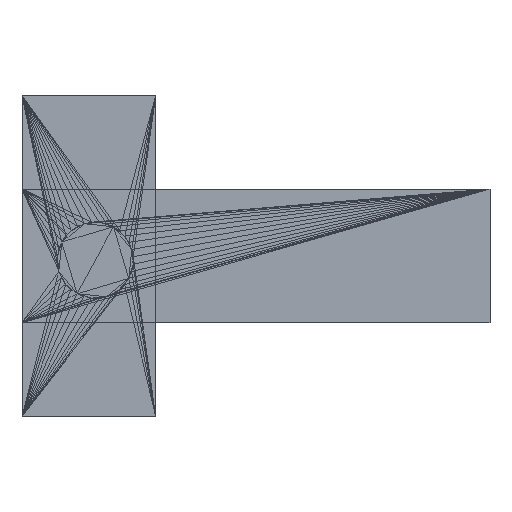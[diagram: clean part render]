
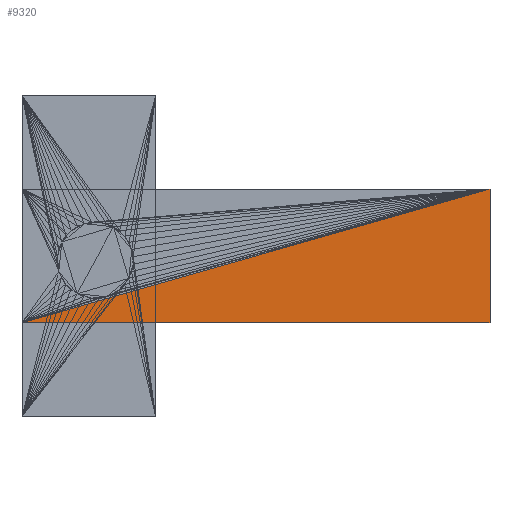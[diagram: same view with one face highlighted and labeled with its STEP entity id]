
A CAD part, top view. The second image highlights one B-rep face of the part: STEP entity #9320.
In plain terms, the highlighted planar face has unit normal (0, 0, 1).
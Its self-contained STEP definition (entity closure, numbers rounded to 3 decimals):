
#8500 = VERTEX_POINT('',#8501);
#8501 = CARTESIAN_POINT('',(-0.245,0.345,
    0.795));
#8828 = PLANE('',#8829);
#8829 = AXIS2_PLACEMENT_3D('',#8830,#8831,#8832);
#8830 = CARTESIAN_POINT('',(-0.228,0.35,
    0.795));
#8831 = DIRECTION('',(0.,0.,1.));
#8832 = DIRECTION('',(1.,0.,-0.));
#8869 = VERTEX_POINT('',#8870);
#8870 = CARTESIAN_POINT('',(-0.21,0.355,
    0.795));
#8896 = EDGE_CURVE('',#8869,#8500,#8897,.T.);
#8897 = SURFACE_CURVE('',#8898,(#8902,#8908),.PCURVE_S1.);
#8898 = LINE('',#8899,#8900);
#8899 = CARTESIAN_POINT('',(-0.21,0.355,
    0.795));
#8900 = VECTOR('',#8901,1.);
#8901 = DIRECTION('',(-0.962,-0.275,0.));
#8902 = PCURVE('',#8828,#8903);
#8903 = DEFINITIONAL_REPRESENTATION('',(#8904),#8907);
#8904 = B_SPLINE_CURVE_WITH_KNOTS('',1,(#8905,#8906),.UNSPECIFIED.,.F.,
  .F.,(2,2),(0.,0.036),.PIECEWISE_BEZIER_KNOTS.);
#8905 = CARTESIAN_POINT('',(0.018,0.005));
#8906 = CARTESIAN_POINT('',(-0.017,-0.005));
#8907 = ( GEOMETRIC_REPRESENTATION_CONTEXT(2) 
PARAMETRIC_REPRESENTATION_CONTEXT() REPRESENTATION_CONTEXT('2D SPACE',''
  ) );
#8908 = PCURVE('',#8909,#8914);
#8909 = PLANE('',#8910);
#8910 = AXIS2_PLACEMENT_3D('',#8911,#8912,#8913);
#8911 = CARTESIAN_POINT('',(-0.226,0.348,
    0.795));
#8912 = DIRECTION('',(0.,0.,1.));
#8913 = DIRECTION('',(0.,1.,0.));
#8914 = DEFINITIONAL_REPRESENTATION('',(#8915),#8919);
#8915 = LINE('',#8916,#8917);
#8916 = CARTESIAN_POINT('',(0.007,-0.015));
#8917 = VECTOR('',#8918,1.);
#8918 = DIRECTION('',(-0.275,0.962));
#8919 = ( GEOMETRIC_REPRESENTATION_CONTEXT(2) 
PARAMETRIC_REPRESENTATION_CONTEXT() REPRESENTATION_CONTEXT('2D SPACE',''
  ) );
#9188 = PLANE('',#9189);
#9189 = AXIS2_PLACEMENT_3D('',#9190,#9191,#9192);
#9190 = CARTESIAN_POINT('',(-0.227,0.345,0.793
    ));
#9191 = DIRECTION('',(-0.,-1.,-0.));
#9192 = DIRECTION('',(0.,0.,-1.));
#9206 = VERTEX_POINT('',#9207);
#9207 = CARTESIAN_POINT('',(-0.21,0.345,
    0.795));
#9227 = EDGE_CURVE('',#9206,#8500,#9228,.T.);
#9228 = SURFACE_CURVE('',#9229,(#9233,#9240),.PCURVE_S1.);
#9229 = LINE('',#9230,#9231);
#9230 = CARTESIAN_POINT('',(-0.21,0.345,
    0.795));
#9231 = VECTOR('',#9232,1.);
#9232 = DIRECTION('',(-1.,0.,0.));
#9233 = PCURVE('',#9188,#9234);
#9234 = DEFINITIONAL_REPRESENTATION('',(#9235),#9239);
#9235 = LINE('',#9236,#9237);
#9236 = CARTESIAN_POINT('',(-0.001,0.016));
#9237 = VECTOR('',#9238,1.);
#9238 = DIRECTION('',(0.,-1.));
#9239 = ( GEOMETRIC_REPRESENTATION_CONTEXT(2) 
PARAMETRIC_REPRESENTATION_CONTEXT() REPRESENTATION_CONTEXT('2D SPACE',''
  ) );
#9240 = PCURVE('',#8909,#9241);
#9241 = DEFINITIONAL_REPRESENTATION('',(#9242),#9245);
#9242 = B_SPLINE_CURVE_WITH_KNOTS('',1,(#9243,#9244),.UNSPECIFIED.,.F.,
  .F.,(2,2),(0.,0.035),.PIECEWISE_BEZIER_KNOTS.);
#9243 = CARTESIAN_POINT('',(-0.003,-0.015));
#9244 = CARTESIAN_POINT('',(-0.003,0.02));
#9245 = ( GEOMETRIC_REPRESENTATION_CONTEXT(2) 
PARAMETRIC_REPRESENTATION_CONTEXT() REPRESENTATION_CONTEXT('2D SPACE',''
  ) );
#9264 = PLANE('',#9265);
#9265 = AXIS2_PLACEMENT_3D('',#9266,#9267,#9268);
#9266 = CARTESIAN_POINT('',(-0.21,0.351,
    0.793));
#9267 = DIRECTION('',(1.,0.,0.));
#9268 = DIRECTION('',(-0.,0.,1.));
#9301 = EDGE_CURVE('',#8869,#9206,#9302,.T.);
#9302 = SURFACE_CURVE('',#9303,(#9307,#9314),.PCURVE_S1.);
#9303 = LINE('',#9304,#9305);
#9304 = CARTESIAN_POINT('',(-0.21,0.355,
    0.795));
#9305 = VECTOR('',#9306,1.);
#9306 = DIRECTION('',(0.,-1.,0.));
#9307 = PCURVE('',#9264,#9308);
#9308 = DEFINITIONAL_REPRESENTATION('',(#9309),#9313);
#9309 = LINE('',#9310,#9311);
#9310 = CARTESIAN_POINT('',(0.001,-0.004));
#9311 = VECTOR('',#9312,1.);
#9312 = DIRECTION('',(0.,1.));
#9313 = ( GEOMETRIC_REPRESENTATION_CONTEXT(2) 
PARAMETRIC_REPRESENTATION_CONTEXT() REPRESENTATION_CONTEXT('2D SPACE',''
  ) );
#9314 = PCURVE('',#8909,#9315);
#9315 = DEFINITIONAL_REPRESENTATION('',(#9316),#9319);
#9316 = B_SPLINE_CURVE_WITH_KNOTS('',1,(#9317,#9318),.UNSPECIFIED.,.F.,
  .F.,(2,2),(0.,0.01),.PIECEWISE_BEZIER_KNOTS.);
#9317 = CARTESIAN_POINT('',(0.007,-0.015));
#9318 = CARTESIAN_POINT('',(-0.003,-0.015));
#9319 = ( GEOMETRIC_REPRESENTATION_CONTEXT(2) 
PARAMETRIC_REPRESENTATION_CONTEXT() REPRESENTATION_CONTEXT('2D SPACE',''
  ) );
#9320 = ADVANCED_FACE('',(#9321),#8909,.T.);
#9321 = FACE_BOUND('',#9322,.T.);
#9322 = EDGE_LOOP('',(#9323,#9324,#9325));
#9323 = ORIENTED_EDGE('',*,*,#8896,.T.);
#9324 = ORIENTED_EDGE('',*,*,#9227,.F.);
#9325 = ORIENTED_EDGE('',*,*,#9301,.F.);
